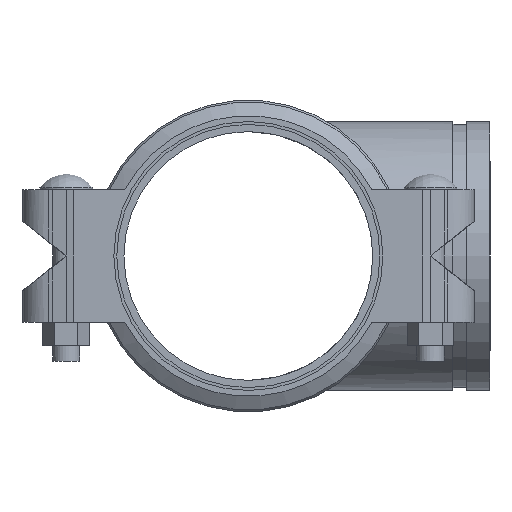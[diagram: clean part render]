
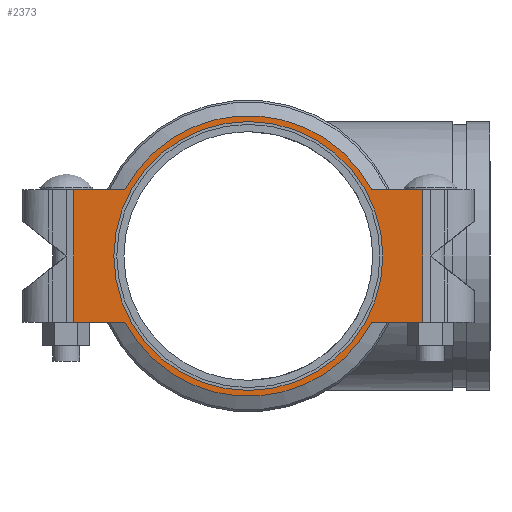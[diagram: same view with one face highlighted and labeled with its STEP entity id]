
A CAD part, left-side view. The second image highlights one B-rep face of the part: STEP entity #2373.
In plain terms, the highlighted planar face has unit normal (-1, 0, 0) as drawn and (0, 0, 1) by its records, which use the part's own axes.
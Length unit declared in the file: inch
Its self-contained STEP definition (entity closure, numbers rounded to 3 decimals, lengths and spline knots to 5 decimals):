
#94=FACE_BOUND('',#372,.T.);
#140=PLANE('',#2676);
#235=FACE_OUTER_BOUND('',#371,.T.);
#371=EDGE_LOOP('',(#1776,#1777,#1778,#1779,#1780,#1781,#1782,#1783));
#372=EDGE_LOOP('',(#1784,#1785));
#521=LINE('',#3846,#694);
#534=LINE('',#3880,#707);
#535=LINE('',#3884,#708);
#536=LINE('',#3886,#709);
#537=LINE('',#3888,#710);
#538=LINE('',#3891,#711);
#694=VECTOR('',#3140,0.3937);
#707=VECTOR('',#3179,0.3937);
#708=VECTOR('',#3182,0.3937);
#709=VECTOR('',#3183,0.3937);
#710=VECTOR('',#3184,0.3937);
#711=VECTOR('',#3187,0.3937);
#862=CIRCLE('',#2677,4.5);
#863=CIRCLE('',#2678,4.5);
#864=CIRCLE('',#2679,4.3125);
#865=CIRCLE('',#2680,4.3125);
#1029=VERTEX_POINT('',#3843);
#1030=VERTEX_POINT('',#3845);
#1038=VERTEX_POINT('',#3879);
#1039=VERTEX_POINT('',#3881);
#1040=VERTEX_POINT('',#3883);
#1041=VERTEX_POINT('',#3885);
#1042=VERTEX_POINT('',#3887);
#1043=VERTEX_POINT('',#3889);
#1044=VERTEX_POINT('',#3892);
#1045=VERTEX_POINT('',#3893);
#1295=EDGE_CURVE('',#1030,#1029,#521,.T.);
#1311=EDGE_CURVE('',#1029,#1038,#534,.T.);
#1312=EDGE_CURVE('',#1039,#1038,#862,.T.);
#1313=EDGE_CURVE('',#1040,#1039,#535,.T.);
#1314=EDGE_CURVE('',#1040,#1041,#536,.T.);
#1315=EDGE_CURVE('',#1041,#1042,#537,.T.);
#1316=EDGE_CURVE('',#1043,#1042,#863,.T.);
#1317=EDGE_CURVE('',#1030,#1043,#538,.T.);
#1318=EDGE_CURVE('',#1044,#1045,#864,.T.);
#1319=EDGE_CURVE('',#1045,#1044,#865,.T.);
#1776=ORIENTED_EDGE('',*,*,#1295,.T.);
#1777=ORIENTED_EDGE('',*,*,#1311,.T.);
#1778=ORIENTED_EDGE('',*,*,#1312,.F.);
#1779=ORIENTED_EDGE('',*,*,#1313,.F.);
#1780=ORIENTED_EDGE('',*,*,#1314,.T.);
#1781=ORIENTED_EDGE('',*,*,#1315,.T.);
#1782=ORIENTED_EDGE('',*,*,#1316,.F.);
#1783=ORIENTED_EDGE('',*,*,#1317,.F.);
#1784=ORIENTED_EDGE('',*,*,#1318,.T.);
#1785=ORIENTED_EDGE('',*,*,#1319,.T.);
#2373=ADVANCED_FACE('',(#235,#94),#140,.T.);
#2676=AXIS2_PLACEMENT_3D('',#3878,#3177,#3178);
#2677=AXIS2_PLACEMENT_3D('',#3882,#3180,#3181);
#2678=AXIS2_PLACEMENT_3D('',#3890,#3185,#3186);
#2679=AXIS2_PLACEMENT_3D('',#3894,#3188,#3189);
#2680=AXIS2_PLACEMENT_3D('',#3895,#3190,#3191);
#3140=DIRECTION('',(0.,-1.,0.));
#3177=DIRECTION('center_axis',(0.,0.,1.));
#3178=DIRECTION('ref_axis',(1.,0.,0.));
#3179=DIRECTION('',(1.,0.,0.));
#3180=DIRECTION('center_axis',(0.,0.,-1.));
#3181=DIRECTION('ref_axis',(-1.,0.,0.));
#3182=DIRECTION('',(-1.,0.,0.));
#3183=DIRECTION('',(0.,1.,0.));
#3184=DIRECTION('',(-1.,0.,0.));
#3185=DIRECTION('center_axis',(0.,0.,-1.));
#3186=DIRECTION('ref_axis',(-1.,0.,0.));
#3187=DIRECTION('',(1.,0.,0.));
#3188=DIRECTION('center_axis',(0.,0.,-1.));
#3189=DIRECTION('ref_axis',(-1.,0.,0.));
#3190=DIRECTION('center_axis',(0.,0.,-1.));
#3191=DIRECTION('ref_axis',(-1.,0.,0.));
#3843=CARTESIAN_POINT('',(-5.6,-2.13,1.315));
#3845=CARTESIAN_POINT('',(-5.6,2.13,1.315));
#3846=CARTESIAN_POINT('',(-5.6,3.315,1.315));
#3878=CARTESIAN_POINT('Origin',(0.,4.5,1.315));
#3879=CARTESIAN_POINT('',(-3.96398,-2.13,1.315));
#3880=CARTESIAN_POINT('',(-7.25895,-2.13,1.315));
#3881=CARTESIAN_POINT('',(3.96398,-2.13,1.315));
#3882=CARTESIAN_POINT('Origin',(0.,0.,1.315));
#3883=CARTESIAN_POINT('',(5.6,-2.13,1.315));
#3884=CARTESIAN_POINT('',(7.25895,-2.13,1.315));
#3885=CARTESIAN_POINT('',(5.6,2.13,1.315));
#3886=CARTESIAN_POINT('',(5.6,3.315,1.315));
#3887=CARTESIAN_POINT('',(3.96398,2.13,1.315));
#3888=CARTESIAN_POINT('',(7.25895,2.13,1.315));
#3889=CARTESIAN_POINT('',(-3.96398,2.13,1.315));
#3890=CARTESIAN_POINT('Origin',(0.,0.,1.315));
#3891=CARTESIAN_POINT('',(-7.25895,2.13,1.315));
#3892=CARTESIAN_POINT('',(0.,4.3125,1.315));
#3893=CARTESIAN_POINT('',(0.,-4.3125,1.315));
#3894=CARTESIAN_POINT('Origin',(0.,0.,1.315));
#3895=CARTESIAN_POINT('Origin',(0.,0.,1.315));
